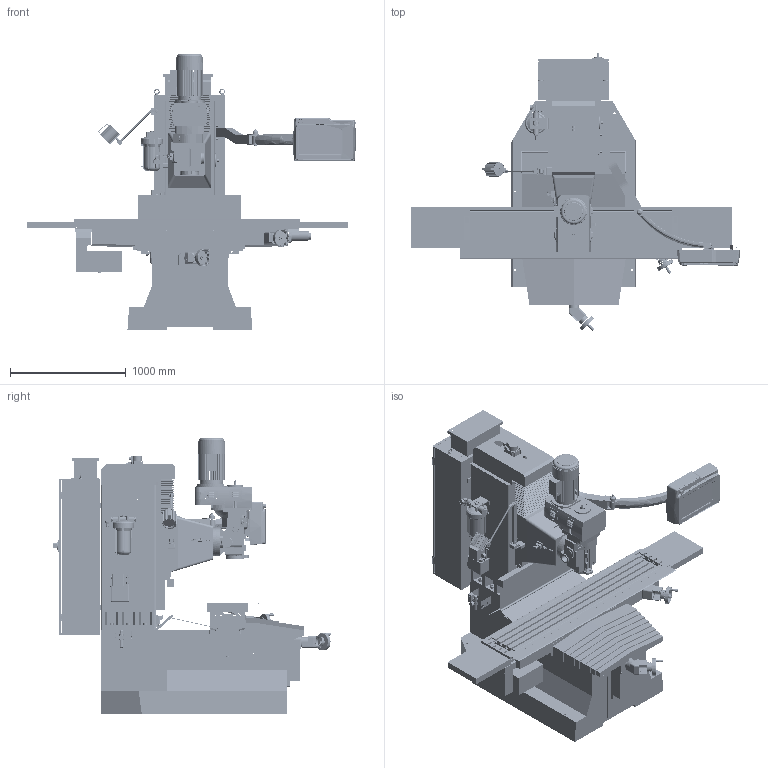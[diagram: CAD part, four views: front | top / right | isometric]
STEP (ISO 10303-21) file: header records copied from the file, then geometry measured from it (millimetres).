
FILE_DESCRIPTION( ( 'Unknown' ), '1' );
FILE_NAME( '//SERVERENG2/Data/DRAWINGS/29467.stp', 'Unknown', ( 'Unknown' ), ( 'Unknown' ), 'PSStep 14.0', 'Unknown', ' ' );
FILE_SCHEMA( ( 'AUTOMOTIVE_DESIGN { 1 0 10303 214 1 1 1 1 }' ) );
Length unit declared in the file: millimetre
Products named in the file (202): 1; 2; 3; 4; 5; 6; 7; 8; 9; 10; 11; 12; 13; 14; 15; 16; 17; 18; 19; 20; 21; 22; 23; 24; 25; 26; 27; H-045-8B; H-167-14_pt10 mod; HY-043-14E(105.12.29); 702-8; 701-7; HB-192-8A(示意圖); H-067-8; H-140-14(106.10.13); H-160-10; H-160-14; HX-007-A; 28;     MSBR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
Bounding box: 2854.27 x 2398.09 x 2388.86 mm (x, y, z)
Surface area: 35182410.5 mm2 (no closed solid volume)
Topology: 0 solids, 2904 shells, 2905 faces, 19215 edges, 18890 vertices
Faces by surface type: plane 1787, cylinder 760, bspline 155, cone 121, torus 42, sphere 35, revolution 5
Full cylindrical faces by diameter (mm): 4.05 x1, 4.917 x1, 6.35 x1, 6.597 x2, 8.026 x1, 8.566 x1, 9.525 x1, 9.652 x2, 10.16 x2, 11 x2, 11.113 x1, 11.969 x1, 12.499 x1, 12.5 x1, 12.7 x3, 13.68 x1, 14 x3, 14.287 x4, 14.406 x1, 15.875 x2, 15.883 x2, 15.927 x1, 16 x6, 16.002 x1, 16.764 x1, 17.5 x1, 17.762 x1, 17.78 x1, 18 x2, 18.27 x1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
Entity records: 256444 total; most frequent: CARTESIAN_POINT 92861, DIRECTION 27720, ORIENTED_EDGE 18859, EDGE_CURVE 18859, VERTEX_POINT 18859, LINE 11562, VECTOR 11562, AXIS2_PLACEMENT_3D 8076
